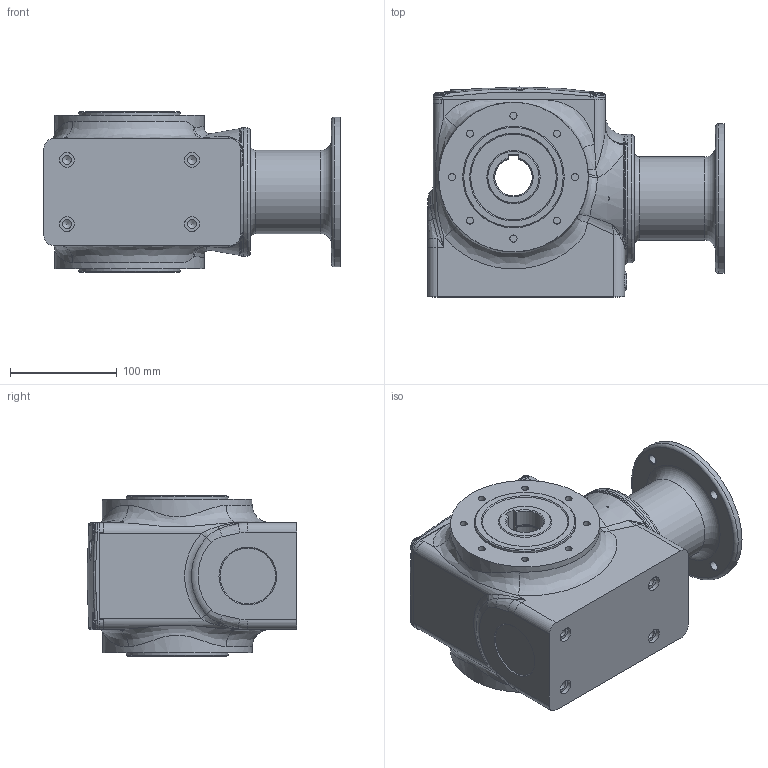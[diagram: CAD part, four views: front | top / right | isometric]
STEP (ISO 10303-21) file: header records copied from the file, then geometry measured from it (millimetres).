
FILE_DESCRIPTION(/* description */ (''),/* implementation_level */ '2;1');
FILE_NAME(/* name */ 'Z:\Dertec\RVS pakket tekeningen\Kasten\FSA + FS serie\FSA\FSA58\Step Customer\FSA58 HA35 AMFL 90B14A #.stp',/* time_stamp */ '2017-12-08T12:14:03+01:00',/* author */ ('Dertec'),/* organization */ (''),/* preprocessor_version */ 'ST-DEVELOPER v16.1',/* originating_system */ 'Autodesk Inventor 2016',/* authorisation */ '');
FILE_SCHEMA (('AUTOMOTIVE_DESIGN { 1 0 10303 214 3 1 1 }'));
Length unit declared in the file: inch
Products named in the file (1): Part64
Bounding box: 277 x 196.41 x 150.01 mm (x, y, z)
Volume: 3838748.5 mm3; surface area: 341085.8 mm2
Topology: 1 solids, 8 shells, 557 faces, 1270 edges, 775 vertices
Faces by surface type: bspline 168, plane 147, cylinder 138, torus 55, cone 47, sphere 2
Full cylindrical faces by diameter (mm): 4.917 x4, 6.644 x1, 6.647 x22, 7 x4, 8.376 x4, 8.917 x1, 9 x4, 11 x4, 14 x4, 46 x1, 47 x1, 49.9 x2, 50 x2, 50.2 x1, 52 x1, 55 x1, 62 x1, 68 x2, 68.4 x1, 69 x1, 71 x1, 72 x1, 78 x1, 80 x5, 83.5 x2, 84 x1, 87 x1, 95 x3, 99 x1, 102 x1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
Entity records: 30912 total; most frequent: CARTESIAN_POINT 19579, ORIENTED_EDGE 2112, DIRECTION 1999, EDGE_CURVE 1056, AXIS2_PLACEMENT_3D 902, EDGE_LOOP 779, VERTEX_POINT 719, STYLED_ITEM 558
